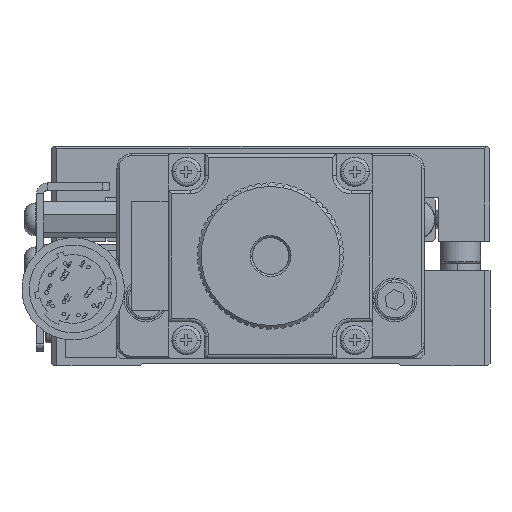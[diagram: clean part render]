
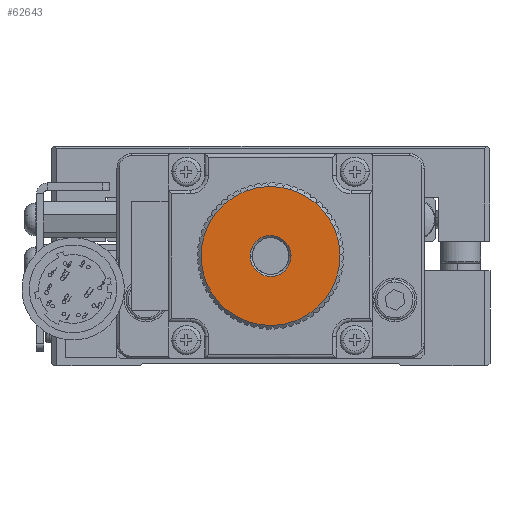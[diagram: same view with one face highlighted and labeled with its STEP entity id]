
A CAD part, front view. The second image highlights one B-rep face of the part: STEP entity #62643.
In plain terms, the highlighted planar face has unit normal (0, -1, 0).
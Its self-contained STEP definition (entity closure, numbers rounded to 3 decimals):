
#14653 = VERTEX_POINT ( 'NONE', #97716 ) ;
#15503 = ORIENTED_EDGE ( 'NONE', *, *, #124928, .T. ) ;
#19337 = CIRCLE ( 'NONE', #127210, 2.8 ) ;
#33803 = EDGE_CURVE ( 'NONE', #147920, #160501, #48083, .T. ) ;
#45329 = AXIS2_PLACEMENT_3D ( 'NONE', #113173, #151277, #59929 ) ;
#48083 = CIRCLE ( 'NONE', #45329, 9.5 ) ;
#55316 = CARTESIAN_POINT ( 'NONE',  ( 0., -108., 15. ) ) ;
#59929 = DIRECTION ( 'NONE',  ( -1., 0., -0.024 ) ) ;
#62643 = ADVANCED_FACE ( 'NONE', ( #144376, #106222 ), #116480, .F. ) ;
#78789 = CARTESIAN_POINT ( 'NONE',  ( -9.497, -108., 14.776 ) ) ;
#83068 = DIRECTION ( 'NONE',  ( 0., -1., 0. ) ) ;
#83692 = DIRECTION ( 'NONE',  ( 0., 1., 0. ) ) ;
#92058 = ORIENTED_EDGE ( 'NONE', *, *, #33803, .T. ) ;
#96505 = EDGE_CURVE ( 'NONE', #14653, #121142, #155859, .T. ) ;
#97716 = CARTESIAN_POINT ( 'NONE',  ( -2.799, -108., 14.934 ) ) ;
#99207 = DIRECTION ( 'NONE',  ( 0., 1., 0. ) ) ;
#102987 = ORIENTED_EDGE ( 'NONE', *, *, #157011, .T. ) ;
#106222 = FACE_OUTER_BOUND ( 'NONE', #134661, .T. ) ;
#107062 = CARTESIAN_POINT ( 'NONE',  ( 0., -108., 15. ) ) ;
#107655 = DIRECTION ( 'NONE',  ( -1., 0., -0.024 ) ) ;
#113173 = CARTESIAN_POINT ( 'NONE',  ( 0., -108., 15. ) ) ;
#116480 = PLANE ( 'NONE',  #119693 ) ;
#119693 = AXIS2_PLACEMENT_3D ( 'NONE', #107062, #130863, #157893 ) ;
#120999 = CARTESIAN_POINT ( 'NONE',  ( 0., -108., 15. ) ) ;
#121142 = VERTEX_POINT ( 'NONE', #126149 ) ;
#124928 = EDGE_CURVE ( 'NONE', #160501, #147920, #147782, .T. ) ;
#126149 = CARTESIAN_POINT ( 'NONE',  ( 2.799, -108., 15.066 ) ) ;
#127210 = AXIS2_PLACEMENT_3D ( 'NONE', #161939, #99207, #147562 ) ;
#130863 = DIRECTION ( 'NONE',  ( 0., 1., 0. ) ) ;
#134661 = EDGE_LOOP ( 'NONE', ( #15503, #92058 ) ) ;
#140617 = CARTESIAN_POINT ( 'NONE',  ( 9.497, -108., 15.224 ) ) ;
#140668 = EDGE_LOOP ( 'NONE', ( #102987, #167081 ) ) ;
#144376 = FACE_BOUND ( 'NONE', #140668, .T. ) ;
#147562 = DIRECTION ( 'NONE',  ( -1., 0., -0.024 ) ) ;
#147782 = CIRCLE ( 'NONE', #161171, 9.5 ) ;
#147920 = VERTEX_POINT ( 'NONE', #140617 ) ;
#151277 = DIRECTION ( 'NONE',  ( 0., -1., 0. ) ) ;
#155859 = CIRCLE ( 'NONE', #158520, 2.8 ) ;
#157011 = EDGE_CURVE ( 'NONE', #121142, #14653, #19337, .T. ) ;
#157893 = DIRECTION ( 'NONE',  ( -1., 0., -0.024 ) ) ;
#158520 = AXIS2_PLACEMENT_3D ( 'NONE', #120999, #83692, #162404 ) ;
#160501 = VERTEX_POINT ( 'NONE', #78789 ) ;
#161171 = AXIS2_PLACEMENT_3D ( 'NONE', #55316, #83068, #107655 ) ;
#161939 = CARTESIAN_POINT ( 'NONE',  ( 0., -108., 15. ) ) ;
#162404 = DIRECTION ( 'NONE',  ( -1., 0., -0.024 ) ) ;
#167081 = ORIENTED_EDGE ( 'NONE', *, *, #96505, .T. ) ;
